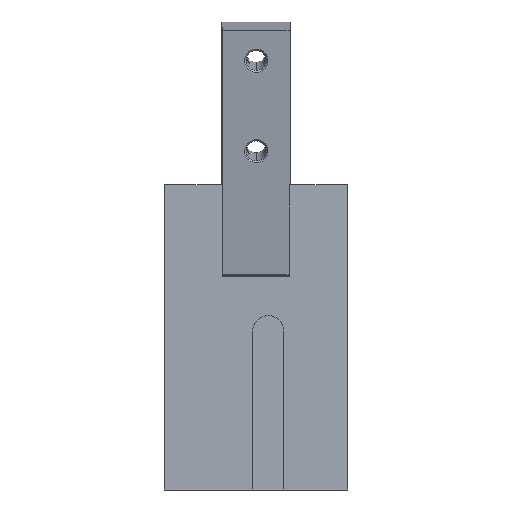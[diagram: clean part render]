
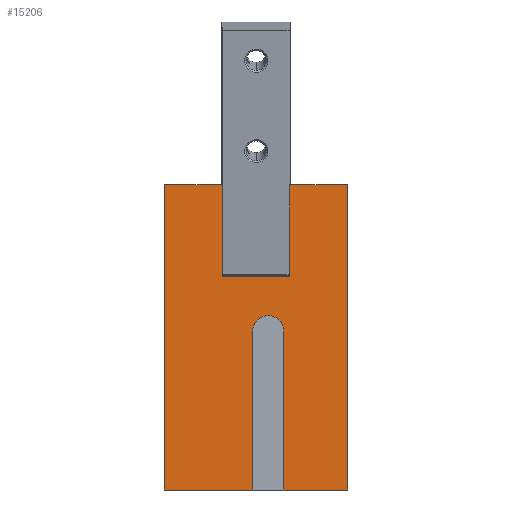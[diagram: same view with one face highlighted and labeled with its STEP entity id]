
A CAD part, left-side view. The second image highlights one B-rep face of the part: STEP entity #15206.
In plain terms, the highlighted planar face has unit normal (-1, 0, 0).
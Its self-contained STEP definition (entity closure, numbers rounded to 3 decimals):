
#45 = CARTESIAN_POINT ( 'NONE',  ( -40., 1.095, 0. ) ) ;
#282 = VECTOR ( 'NONE', #7484, 1000. ) ;
#482 = LINE ( 'NONE', #19120, #20601 ) ;
#540 = ORIENTED_EDGE ( 'NONE', *, *, #3844, .F. ) ;
#993 = LINE ( 'NONE', #8109, #19082 ) ;
#1101 = CARTESIAN_POINT ( 'NONE',  ( -40., 11., 70. ) ) ;
#1764 = VERTEX_POINT ( 'NONE', #20182 ) ;
#1811 = CARTESIAN_POINT ( 'NONE',  ( -40., -9.155, 0. ) ) ;
#1837 = EDGE_CURVE ( 'NONE', #10356, #4131, #12578, .T. ) ;
#1865 = VECTOR ( 'NONE', #20511, 1000. ) ;
#2586 = LINE ( 'NONE', #12382, #7424 ) ;
#2611 = ORIENTED_EDGE ( 'NONE', *, *, #3658, .F. ) ;
#2725 = LINE ( 'NONE', #14792, #12660 ) ;
#2950 = AXIS2_PLACEMENT_3D ( 'NONE', #10499, #15347, #20486 ) ;
#3082 = VERTEX_POINT ( 'NONE', #19265 ) ;
#3138 = EDGE_CURVE ( 'NONE', #5828, #19748, #17324, .T. ) ;
#3459 = LINE ( 'NONE', #5147, #19548 ) ;
#3658 = EDGE_CURVE ( 'NONE', #3725, #19294, #3776, .T. ) ;
#3725 = VERTEX_POINT ( 'NONE', #3845 ) ;
#3776 = LINE ( 'NONE', #3786, #16274 ) ;
#3786 = CARTESIAN_POINT ( 'NONE',  ( -40., -11., 70. ) ) ;
#3844 = EDGE_CURVE ( 'NONE', #10770, #3082, #482, .T. ) ;
#3845 = CARTESIAN_POINT ( 'NONE',  ( -40., -11., 70. ) ) ;
#4131 = VERTEX_POINT ( 'NONE', #11520 ) ;
#4182 = EDGE_CURVE ( 'NONE', #19748, #6819, #2725, .T. ) ;
#4618 = CARTESIAN_POINT ( 'NONE',  ( -40., -4.03, 52. ) ) ;
#4895 = VECTOR ( 'NONE', #17095, 1000. ) ;
#4936 = CARTESIAN_POINT ( 'NONE',  ( -40., -9.155, 0. ) ) ;
#5089 = ORIENTED_EDGE ( 'NONE', *, *, #6059, .F. ) ;
#5147 = CARTESIAN_POINT ( 'NONE',  ( -40., 30., 100. ) ) ;
#5184 = DIRECTION ( 'NONE',  ( 0., -1., 0. ) ) ;
#5598 = ORIENTED_EDGE ( 'NONE', *, *, #3138, .F. ) ;
#5828 = VERTEX_POINT ( 'NONE', #20755 ) ;
#6052 = CARTESIAN_POINT ( 'NONE',  ( -40., 11., 70. ) ) ;
#6059 = EDGE_CURVE ( 'NONE', #8153, #4131, #13305, .T. ) ;
#6819 = VERTEX_POINT ( 'NONE', #45 ) ;
#6885 = EDGE_CURVE ( 'NONE', #5828, #8724, #8930, .T. ) ;
#7424 = VECTOR ( 'NONE', #18937, 1000. ) ;
#7484 = DIRECTION ( 'NONE',  ( 0., -1., 0. ) ) ;
#8109 = CARTESIAN_POINT ( 'NONE',  ( -40., 30., 0. ) ) ;
#8153 = VERTEX_POINT ( 'NONE', #11687 ) ;
#8420 = DIRECTION ( 'NONE',  ( 0., 0., 1. ) ) ;
#8663 = VECTOR ( 'NONE', #20130, 1000. ) ;
#8724 = VERTEX_POINT ( 'NONE', #4936 ) ;
#8930 = LINE ( 'NONE', #1811, #8663 ) ;
#9008 = ORIENTED_EDGE ( 'NONE', *, *, #4182, .F. ) ;
#9326 = DIRECTION ( 'NONE',  ( 0., 0., -1. ) ) ;
#9835 = DIRECTION ( 'NONE',  ( 0., -1., 0. ) ) ;
#9959 = DIRECTION ( 'NONE',  ( 0., 0., -1. ) ) ;
#10039 = ORIENTED_EDGE ( 'NONE', *, *, #14717, .T. ) ;
#10356 = VERTEX_POINT ( 'NONE', #6052 ) ;
#10499 = CARTESIAN_POINT ( 'NONE',  ( -40., 30., 100. ) ) ;
#10765 = LINE ( 'NONE', #12592, #1865 ) ;
#10770 = VERTEX_POINT ( 'NONE', #12615 ) ;
#10841 = EDGE_CURVE ( 'NONE', #10356, #3725, #19893, .T. ) ;
#10920 = ORIENTED_EDGE ( 'NONE', *, *, #17735, .T. ) ;
#11520 = CARTESIAN_POINT ( 'NONE',  ( -40., 11., 100. ) ) ;
#11553 = CARTESIAN_POINT ( 'NONE',  ( -40., 30., 100. ) ) ;
#11687 = CARTESIAN_POINT ( 'NONE',  ( -40., 30., 100. ) ) ;
#12169 = ORIENTED_EDGE ( 'NONE', *, *, #6885, .T. ) ;
#12382 = CARTESIAN_POINT ( 'NONE',  ( -40., 30., 100. ) ) ;
#12504 = ORIENTED_EDGE ( 'NONE', *, *, #1837, .T. ) ;
#12578 = LINE ( 'NONE', #13870, #4895 ) ;
#12592 = CARTESIAN_POINT ( 'NONE',  ( -40., 30., 0. ) ) ;
#12615 = CARTESIAN_POINT ( 'NONE',  ( -40., -30., 100. ) ) ;
#12660 = VECTOR ( 'NONE', #9959, 1000. ) ;
#12870 = ORIENTED_EDGE ( 'NONE', *, *, #18458, .F. ) ;
#12888 = DIRECTION ( 'NONE',  ( 0., -1., 0. ) ) ;
#13305 = LINE ( 'NONE', #11553, #16109 ) ;
#13870 = CARTESIAN_POINT ( 'NONE',  ( -40., 11., 70. ) ) ;
#14278 = EDGE_CURVE ( 'NONE', #1764, #6819, #10765, .T. ) ;
#14717 = EDGE_CURVE ( 'NONE', #8153, #1764, #2586, .T. ) ;
#14792 = CARTESIAN_POINT ( 'NONE',  ( -40., 1.095, 0. ) ) ;
#15206 = ADVANCED_FACE ( 'NONE', ( #17376 ), #15484, .F. ) ;
#15347 = DIRECTION ( 'NONE',  ( 1., 0., 0. ) ) ;
#15484 = PLANE ( 'NONE',  #2950 ) ;
#15810 = CARTESIAN_POINT ( 'NONE',  ( -40., -11., 100. ) ) ;
#15997 = ORIENTED_EDGE ( 'NONE', *, *, #14278, .T. ) ;
#16109 = VECTOR ( 'NONE', #5184, 1000. ) ;
#16185 = ORIENTED_EDGE ( 'NONE', *, *, #10841, .F. ) ;
#16274 = VECTOR ( 'NONE', #8420, 1000. ) ;
#17095 = DIRECTION ( 'NONE',  ( 0., 0., 1. ) ) ;
#17268 = CARTESIAN_POINT ( 'NONE',  ( -40., 1.095, 52. ) ) ;
#17324 = CIRCLE ( 'NONE', #17649, 5.125 ) ;
#17376 = FACE_OUTER_BOUND ( 'NONE', #19577, .T. ) ;
#17649 = AXIS2_PLACEMENT_3D ( 'NONE', #4618, #19332, #9835 ) ;
#17735 = EDGE_CURVE ( 'NONE', #8724, #3082, #993, .T. ) ;
#18280 = DIRECTION ( 'NONE',  ( 0., -1., 0. ) ) ;
#18458 = EDGE_CURVE ( 'NONE', #19294, #10770, #3459, .T. ) ;
#18937 = DIRECTION ( 'NONE',  ( 0., 0., -1. ) ) ;
#19082 = VECTOR ( 'NONE', #12888, 1000. ) ;
#19120 = CARTESIAN_POINT ( 'NONE',  ( -40., -30., 100. ) ) ;
#19265 = CARTESIAN_POINT ( 'NONE',  ( -40., -30., 0. ) ) ;
#19294 = VERTEX_POINT ( 'NONE', #15810 ) ;
#19332 = DIRECTION ( 'NONE',  ( -1., 0., 0. ) ) ;
#19548 = VECTOR ( 'NONE', #18280, 1000. ) ;
#19577 = EDGE_LOOP ( 'NONE', ( #12169, #10920, #540, #12870, #2611, #16185, #12504, #5089, #10039, #15997, #9008, #5598 ) ) ;
#19748 = VERTEX_POINT ( 'NONE', #17268 ) ;
#19893 = LINE ( 'NONE', #1101, #282 ) ;
#20130 = DIRECTION ( 'NONE',  ( 0., 0., -1. ) ) ;
#20182 = CARTESIAN_POINT ( 'NONE',  ( -40., 30., 0. ) ) ;
#20486 = DIRECTION ( 'NONE',  ( 0., 1., 0. ) ) ;
#20511 = DIRECTION ( 'NONE',  ( 0., -1., 0. ) ) ;
#20601 = VECTOR ( 'NONE', #9326, 1000. ) ;
#20755 = CARTESIAN_POINT ( 'NONE',  ( -40., -9.155, 52. ) ) ;
